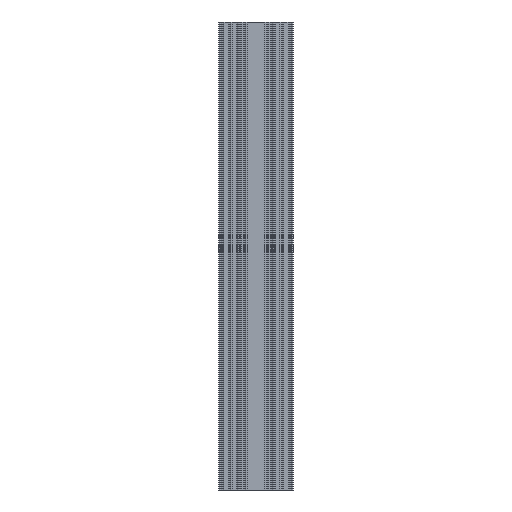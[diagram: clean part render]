
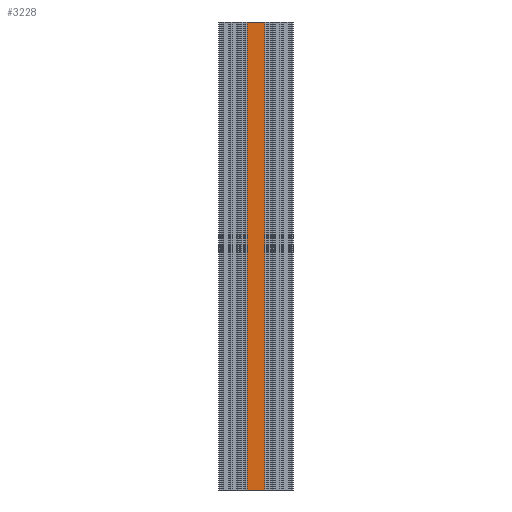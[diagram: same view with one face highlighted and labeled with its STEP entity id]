
A CAD part, front view. The second image highlights one B-rep face of the part: STEP entity #3228.
In plain terms, the highlighted planar face has unit normal (0, -1, 0).
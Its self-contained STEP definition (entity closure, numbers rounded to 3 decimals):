
#175 = VERTEX_POINT ( 'NONE', #11417 ) ;
#744 = EDGE_LOOP ( 'NONE', ( #5625, #11290, #2933, #13655 ) ) ;
#901 = VERTEX_POINT ( 'NONE', #15947 ) ;
#1796 = LINE ( 'NONE', #7132, #8511 ) ;
#2017 = DIRECTION ( 'NONE',  ( -1., 0., 0. ) ) ;
#2425 = VERTEX_POINT ( 'NONE', #12359 ) ;
#2448 = DIRECTION ( 'NONE',  ( 0., 0., 1. ) ) ;
#2551 = EDGE_CURVE ( 'NONE', #901, #10439, #4415, .T. ) ;
#2933 = ORIENTED_EDGE ( 'NONE', *, *, #9705, .F. ) ;
#3173 = DIRECTION ( 'NONE',  ( -1., 0., 0. ) ) ;
#3228 = ADVANCED_FACE ( 'NONE', ( #11736 ), #6614, .F. ) ;
#3416 = DIRECTION ( 'NONE',  ( 0., 0., 1. ) ) ;
#3932 = CARTESIAN_POINT ( 'NONE',  ( -12.355, 89.577, 0. ) ) ;
#4415 = LINE ( 'NONE', #8687, #14683 ) ;
#5625 = ORIENTED_EDGE ( 'NONE', *, *, #2551, .T. ) ;
#6614 = PLANE ( 'NONE',  #15687 ) ;
#6955 = EDGE_CURVE ( 'NONE', #175, #10439, #10698, .T. ) ;
#7132 = CARTESIAN_POINT ( 'NONE',  ( -12.355, 89.577, 0. ) ) ;
#7980 = DIRECTION ( 'NONE',  ( -1., 0., 0. ) ) ;
#8511 = VECTOR ( 'NONE', #3173, 1000. ) ;
#8687 = CARTESIAN_POINT ( 'NONE',  ( -12.355, 89.577, 1000. ) ) ;
#9166 = VECTOR ( 'NONE', #2448, 1000. ) ;
#9705 = EDGE_CURVE ( 'NONE', #2425, #175, #1796, .T. ) ;
#10439 = VERTEX_POINT ( 'NONE', #15578 ) ;
#10698 = LINE ( 'NONE', #15407, #13839 ) ;
#11290 = ORIENTED_EDGE ( 'NONE', *, *, #6955, .F. ) ;
#11417 = CARTESIAN_POINT ( 'NONE',  ( -12.355, 89.577, 0. ) ) ;
#11736 = FACE_OUTER_BOUND ( 'NONE', #744, .T. ) ;
#11920 = EDGE_CURVE ( 'NONE', #2425, #901, #12725, .T. ) ;
#12359 = CARTESIAN_POINT ( 'NONE',  ( 25.445, 89.577, 0. ) ) ;
#12725 = LINE ( 'NONE', #14502, #9166 ) ;
#13655 = ORIENTED_EDGE ( 'NONE', *, *, #11920, .T. ) ;
#13839 = VECTOR ( 'NONE', #3416, 1000. ) ;
#14502 = CARTESIAN_POINT ( 'NONE',  ( 25.445, 89.577, 0. ) ) ;
#14683 = VECTOR ( 'NONE', #2017, 1000. ) ;
#15407 = CARTESIAN_POINT ( 'NONE',  ( -12.355, 89.577, 0. ) ) ;
#15578 = CARTESIAN_POINT ( 'NONE',  ( -12.355, 89.577, 1000. ) ) ;
#15687 = AXIS2_PLACEMENT_3D ( 'NONE', #3932, #16009, #7980 ) ;
#15947 = CARTESIAN_POINT ( 'NONE',  ( 25.445, 89.577, 1000. ) ) ;
#16009 = DIRECTION ( 'NONE',  ( 0., 1., 0. ) ) ;
